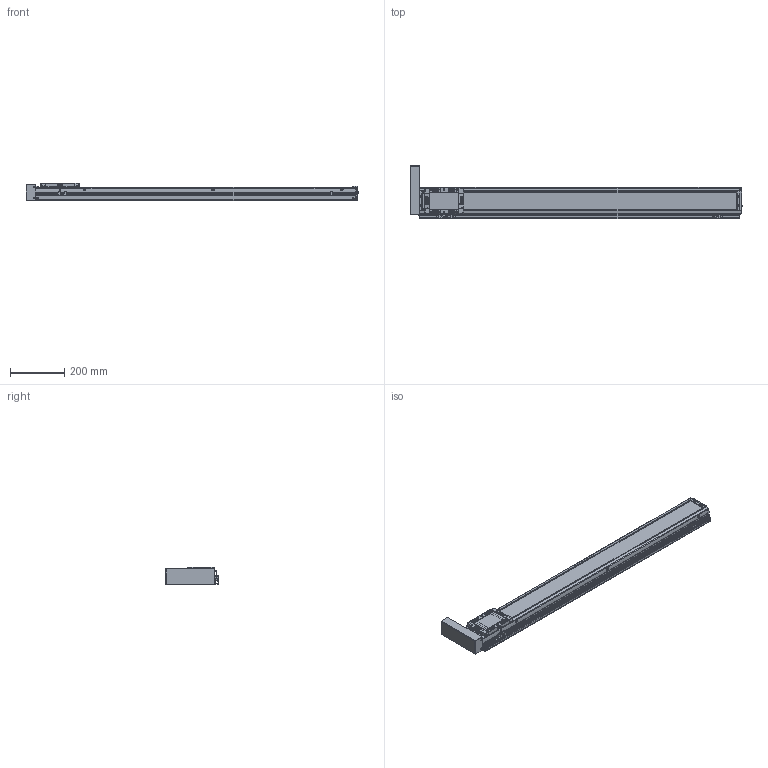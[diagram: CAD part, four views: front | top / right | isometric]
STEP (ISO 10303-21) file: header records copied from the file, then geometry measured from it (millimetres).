
FILE_DESCRIPTION(('STEP AP214'),'1');
FILE_NAME('Z:/Web/3D/SAN100/SAN100 양산용 (STEP)/SAN100ㅁㅁ-1000PL+3SR.stp','2013-04-30T05:06:12',(' '),(' '),'Spatial InterOp 3D',' ',' ');
FILE_SCHEMA(('automotive_design'));
Length unit declared in the file: millimetre
Products named in the file (51): EE-SX674; SBK-SX674-352; 스크루 : Round - M3.0 x 6.0; M3.0 x 6.0; SRL-16x17-380L; SGD-SAN100; BTCV-SAN65; BHCS M3 X 6L; SUS COVER; SFX-SAN100; RRCV-SAN100; 스크루 : Round - M4.0 x 10.0; FRBL-SAN100; SLBL-SAN100; SLCV-SAN100; 스크루 : Countersunk - M3.0 x 6.0; BASE; 스크루 : Round - M5.0 x 6.0
Bounding box: 1226.5 x 197.06 x 66 mm (x, y, z)
Volume: 3619413.4 mm3; surface area: 931824.5 mm2
Topology: 51 solids, 52 shells, 2527 faces, 6598 edges, 4261 vertices
Faces by surface type: plane 1316, cylinder 891, cone 218, sphere 68, torus 18, bspline 16
Entity records: 99836 total; most frequent: CARTESIAN_POINT 15043, DIRECTION 13881, ORIENTED_EDGE 12976, EDGE_CURVE 6488, AXIS2_PLACEMENT_3D 4952, VERTEX_POINT 4261, LINE 3977, VECTOR 3977
